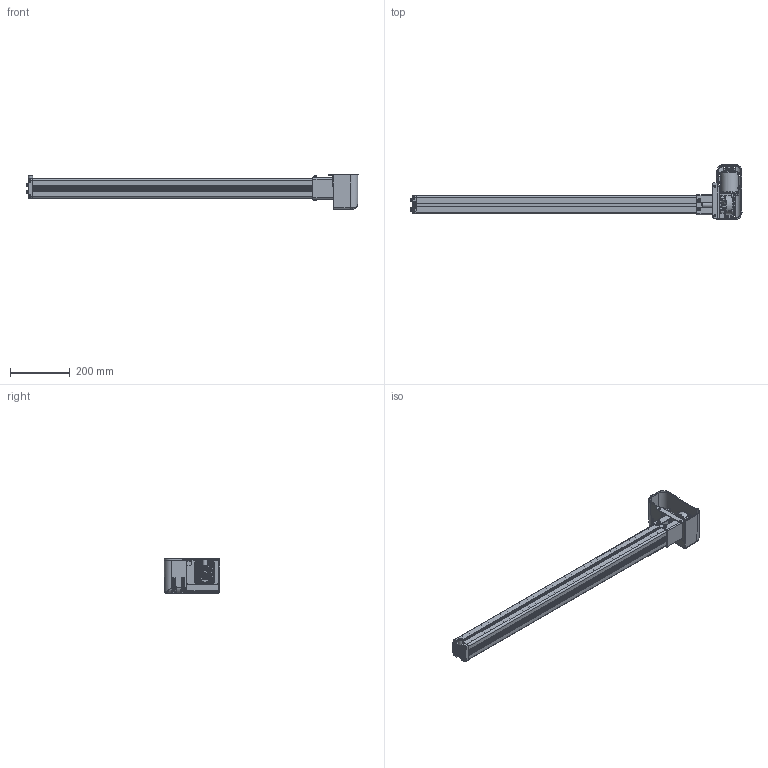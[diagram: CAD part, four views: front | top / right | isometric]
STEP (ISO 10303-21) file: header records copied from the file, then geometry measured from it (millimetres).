
FILE_DESCRIPTION(/* description */ ('Unknown'),/* implementation_level */ '2;1');
FILE_NAME(/* name */ '3X3.20037 Pumpe PF 4870 W mit Antrieb',/* time_stamp */ '2018-01-19T16:43:58+01:00',/* author */ ('Unknown'),/* organization */ ('Unknown'),/* preprocessor_version */ 'ST-DEVELOPER v16.7',/* originating_system */ 'DEX',/* authorisation */ $);
FILE_SCHEMA (('AUTOMOTIVE_DESIGN {1 0 10303 214 3 1 1}'));
Products named in the file (38): 103.20037; 115.10057_oa_0; 125.00126; 115.00008_oa_1; 142.00021; 125.00021; 115.10057_oa_2; 115.00008_oa_3; 142.00013; 115.10057_oa_4; 115.00008_oa_5; 115.10057_oa_6; 115.00008_oa_7; 142.00057; 125.00149; 115.00141; 126.00076; 122.00040; 119.00357; 126.00075; 112.0014X; 127.00315; 127.00314; 127.00313; 124.00090; Getriebe; Ring; Schraube; Stator; Abdeckplatte; Antriebswelle; 128.00051; 142.00018; 142.00019; 142.00228; 142.00131; 123.00029; 123.00044
Assembly tree (58 placements, depth 4):
  103.20037
    115.10057_oa_0
      125.00126
      115.00008_oa_1
      142.00021
      125.00021
    115.10057_oa_2
      125.00126
      115.00008_oa_3
      142.00021
      125.00021
    142.00013  x8
    115.10057_oa_4
      125.00126
      115.00008_oa_5
      142.00021
      125.00021
    115.10057_oa_6
      125.00126
      115.00008_oa_7
      142.00021
      125.00021
    142.00057
    125.00149
    115.00141
      126.00076
      122.00040
    119.00357
    126.00075
    112.0014X
      127.00315
        127.00314
        127.00313
      124.00090
        Getriebe
        Ring
        Schraube
        Stator
        Abdeckplatte
        Antriebswelle
      128.00051
      142.00018  x2
      142.00019  x2
      142.00228  x2
      142.00131  x3
      123.00029
    123.00044
Bounding box: 1112.42 x 186.04 x 115.45 mm (x, y, z)
Volume: 1617574.2 mm3; surface area: 978215.5 mm2
Topology: 46 solids, 48 shells, 4607 faces, 11898 edges, 7349 vertices
Faces by surface type: plane 1541, cylinder 1236, bspline 1115, cone 463, torus 200, sphere 52
Full cylindrical faces by diameter (mm): 2.5 x4, 3.2 x4, 3.5 x4, 3.9 x5, 4.1 x4, 4.2 x6, 4.4 x5, 4.5 x1, 4.917 x2, 5 x8, 5.5 x5, 6 x6, 6.4 x2, 6.8 x9, 6.917 x8, 7 x1, 8 x10, 8.5 x2, 9 x2, 9.5 x1, 9.8 x8, 10 x8, 10.3 x1, 10.32 x1, 10.4 x1, 11 x5, 13 x4, 14 x3, 14.4 x4, 15 x1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
Entity records: 177584 total; most frequent: CARTESIAN_POINT 86987, ORIENTED_EDGE 18960, DIRECTION 14065, EDGE_CURVE 9480, VERTEX_POINT 6216, AXIS2_PLACEMENT_3D 5196, FACE_BOUND 4424, EDGE_LOOP 4419
